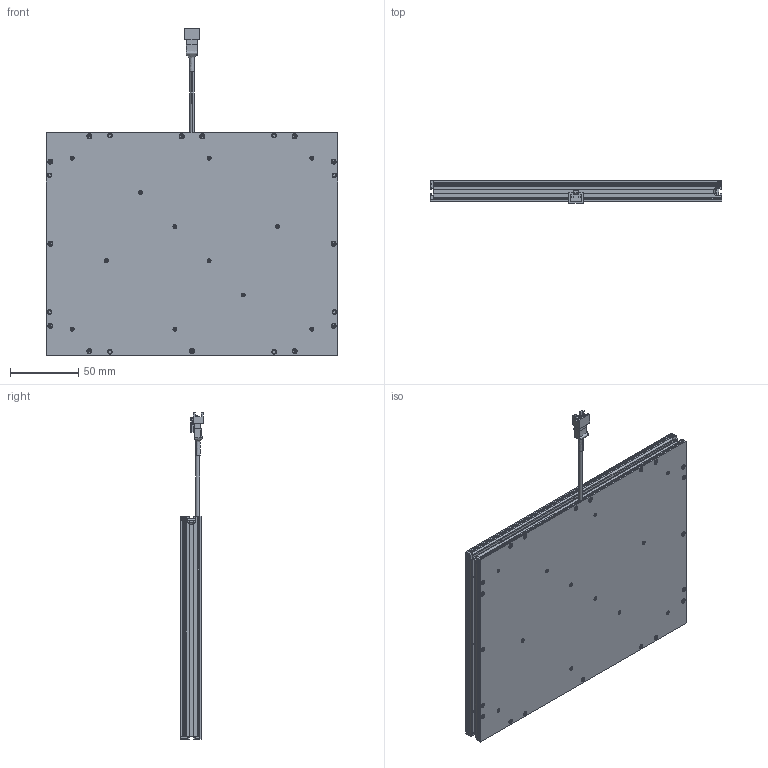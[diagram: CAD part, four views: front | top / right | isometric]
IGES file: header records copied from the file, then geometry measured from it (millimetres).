
Start section: SolidWorks IGES file using analytic representation for surfaces
Global section: file name: C:\Users\user\Downloads\TEMP_STEP\VDF-200150_Drawing_L1183A-A00100.IGS; native system: SolidWorks 2018; preprocessor: SolidWorks 2018; author: user; date: 231221.084648; units: millimetre
Bounding box: 213 x 16.55 x 238.55 mm (x, y, z)
Surface area: 136367.6 mm2 (no closed solid volume)
Topology: 0 solids, 0 shells, 690 faces, 7959 edges, 7959 vertices
Faces by surface type: bspline 438, revolution 252
